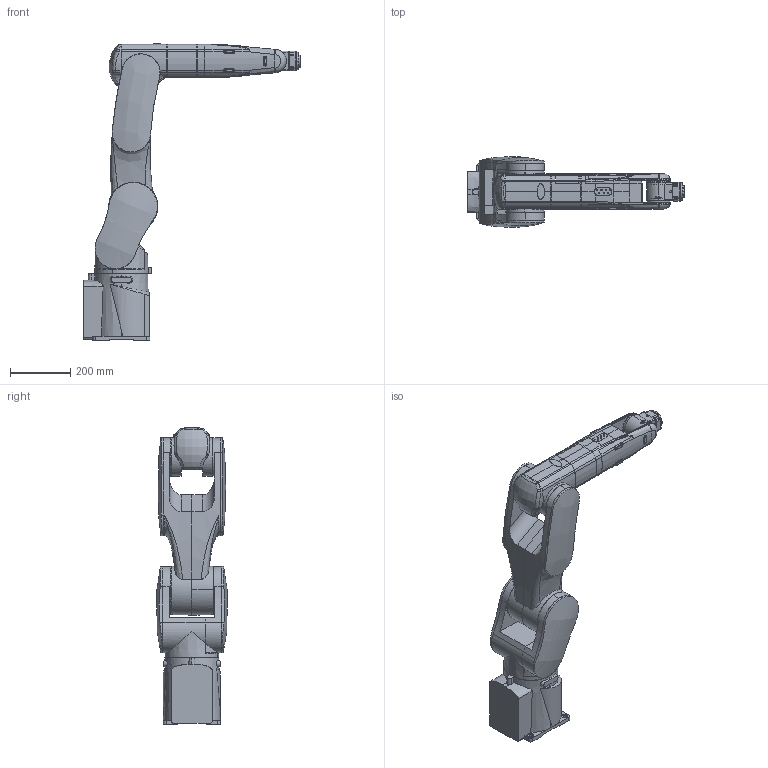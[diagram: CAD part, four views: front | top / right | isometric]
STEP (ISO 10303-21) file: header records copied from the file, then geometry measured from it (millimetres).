
FILE_DESCRIPTION (( 'STEP AP203' ), '1' );
FILE_NAME ('HH7 TOTAL 210729.STEP', '2021-07-29T09:59:25', ( 'fulluser' ), ( '' ), 'SwSTEP 2.0', 'SolidWorks 2020', '' );
FILE_SCHEMA (( 'CONFIG_CONTROL_DESIGN' ));
Length unit declared in the file: millimetre
Products named in the file (9): 荤夯 lower frame^HH7 TOTAL 雀傈啊瓷_1; 荤夯 ____ ARM PIPE ASSY^HH7 TOTAL 雀傈啊瓷_1; 荤夯 arm frame^HH7 TOTAL 雀傈啊瓷_1; 荤夯 base frame1^HH7 TOTAL 雀傈啊瓷_1; HH7 TOTAL 210729; wrist body rev3; 荤夯 V3Mechanical Interface^HH7 TOTAL 雀傈啊瓷_1; 荤夯 upper frame^HH7 TOTAL 雀傈啊瓷_1; 荤夯 wrist holder rev1^HH7 TOTAL 雀傈啊瓷_1
Assembly tree (8 placements, depth 2):
  HH7 TOTAL 210729
    荤夯 ____ ARM PIPE ASSY^HH7 TOTAL 雀傈啊瓷_1
    荤夯 lower frame^HH7 TOTAL 雀傈啊瓷_1
    荤夯 upper frame^HH7 TOTAL 雀傈啊瓷_1
    wrist body rev3
    荤夯 wrist holder rev1^HH7 TOTAL 雀傈啊瓷_1
    荤夯 base frame1^HH7 TOTAL 雀傈啊瓷_1
    荤夯 V3Mechanical Interface^HH7 TOTAL 雀傈啊瓷_1
    荤夯 arm frame^HH7 TOTAL 雀傈啊瓷_1
Bounding box: 722.62 x 233.86 x 988.29 mm (x, y, z)
Volume: 28612893.7 mm3; surface area: 2211756.7 mm2
Topology: 25 solids, 44 shells, 1755 faces, 4318 edges, 2703 vertices
Faces by surface type: cylinder 751, plane 497, cone 270, bspline 188, torus 47, sphere 2
Entity records: 68632 total; most frequent: CARTESIAN_POINT 27220, DIRECTION 8601, ORIENTED_EDGE 8348, EDGE_CURVE 4174, AXIS2_PLACEMENT_3D 3472, VERTEX_POINT 2703, EDGE_LOOP 2011, CIRCLE 1894
